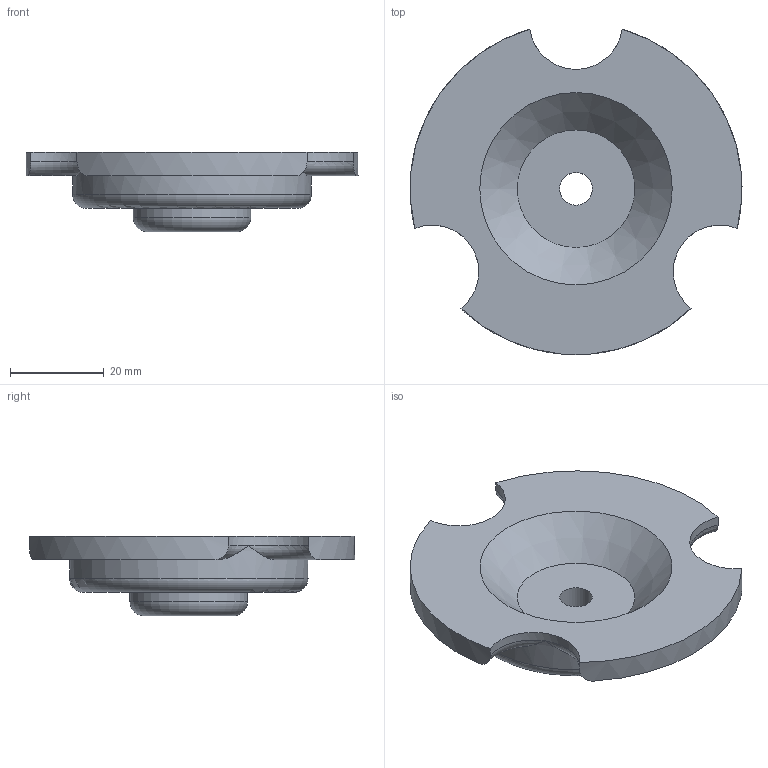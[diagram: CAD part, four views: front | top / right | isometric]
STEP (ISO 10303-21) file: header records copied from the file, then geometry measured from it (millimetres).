
FILE_DESCRIPTION(/* description */ ('STEP AP242 Edition 2','CAx-IF Rec.Pracs.---Representation and Presentation of Product Manufacturing Information (PMI)---4.0---2014-10-13','CAx-IF Rec.Pracs.---3D Tessellated Geometry---0.4---2014-09-14','2;1','CAx-IF Rec.Pracs.---User Defined Attributes---1.5---2016-08-15'),/* implementation_level */ '2;1');
FILE_NAME(/* name */ 'MagnetAssembly - Bottom',/* time_stamp */ '2026-01-28T16:59:11Z',/* author */ (''),/* organization */ (''),/* preprocessor_version */ 'ST-DEVELOPER v20',/* originating_system */ 'ONSHAPE BY PTC INC, 1.209',/* authorisation */ ' ');
FILE_SCHEMA (('AP242_MANAGED_MODEL_BASED_3D_ENGINEERING_MIM_LF { 1 0 10303 442 3 1 4 }'));
Length unit declared in the file: metre
Products named in the file (1): Bottom
Bounding box: 70.99 x 69.6 x 17 mm (x, y, z)
Volume: 26429.7 mm3; surface area: 9857.6 mm2
Topology: 1 solids, 1 shells, 25 faces, 59 edges, 38 vertices
Faces by surface type: cylinder 9, torus 8, plane 7, cone 1
Full cylindrical faces by diameter (mm): 7 x1, 25.15 x1, 51.05 x1
Entity records: 736 total; most frequent: CARTESIAN_POINT 161, DIRECTION 124, ORIENTED_EDGE 102, AXIS2_PLACEMENT_3D 59, EDGE_CURVE 51, VERTEX_POINT 36, EDGE_LOOP 35, FACE_BOUND 35
